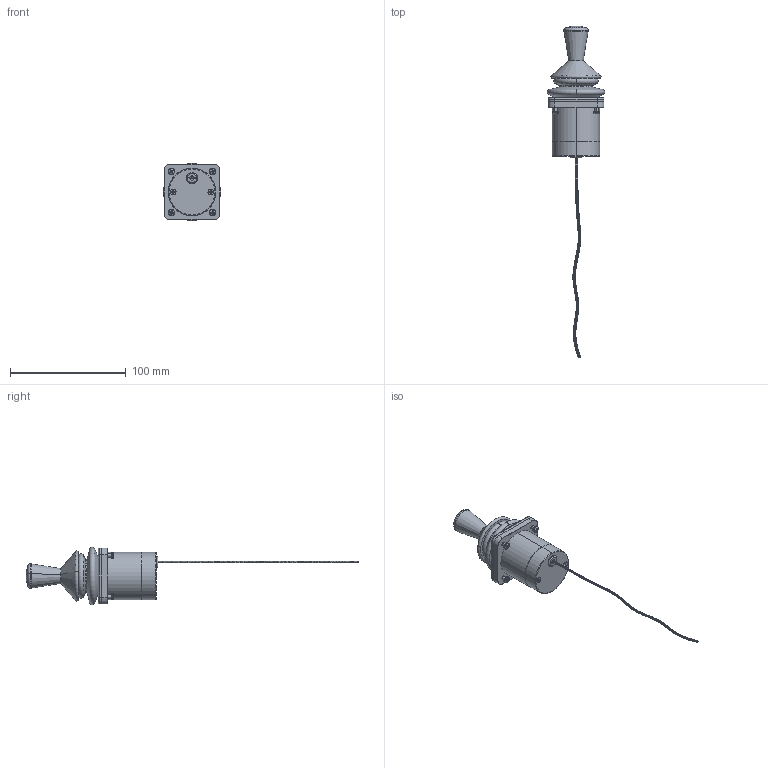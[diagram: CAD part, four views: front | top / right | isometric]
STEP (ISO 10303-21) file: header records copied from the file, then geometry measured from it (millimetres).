
FILE_DESCRIPTION (( 'STEP AP214' ), '1' );
FILE_NAME ('TRY10-2511111.STEP', '2011-11-30T09:24:07', ( 'admin' ), ( '' ), 'SwSTEP 2.0', 'SolidWorks 2007', '' );
FILE_SCHEMA (( 'AUTOMOTIVE_DESIGN' ));
Length unit declared in the file: millimetre
Products named in the file (14): Abdeckrahmen #2; Balg-02; Gummidichtung; Knauf-Typ1; Litzen_Standard; Flat Head 100 Screw_AI_CR-FHM1 0.112-40x0.25x0.25-N; Einzellitze; Pan Cross Head_AI_CR-PHMS 0.112-40x0.375x0.375-N; Durchf黨rungst黮le_Standard; Flat Head Screw_AI_CR-FHMS 0.112-40x0.625x0.625-N; Gehäuse-Boden-USB; Gehäuse-Neu; TRY10-2511111; Stellring
Assembly tree (26 placements, depth 3):
  TRY10-2511111
    Durchf黨rungst黮le_Standard
    Litzen_Standard
      Einzellitze  x9
    Knauf-Typ1
    Gehäuse-Neu
    Abdeckrahmen #2
    Flat Head 100 Screw_AI_CR-FHM1 0.112-40x0.25x0.25-N  x2
    Pan Cross Head_AI_CR-PHMS 0.112-40x0.375x0.375-N  x4
    Flat Head Screw_AI_CR-FHMS 0.112-40x0.625x0.625-N  x2
    Stellring
    Gehäuse-Boden-USB
    Gummidichtung
    Balg-02
Bounding box: 49.7 x 286.96 x 49.7 mm (x, y, z)
Volume: 53343.7 mm3; surface area: 50515.2 mm2
Topology: 25 solids, 25 shells, 1305 faces, 2775 edges, 1547 vertices
Faces by surface type: bspline 724, plane 250, cylinder 202, torus 69, cone 50, sphere 10
Entity records: 18860 total; most frequent: CARTESIAN_POINT 5875, DIRECTION 2684, ORIENTED_EDGE 2490, EDGE_CURVE 1245, AXIS2_PLACEMENT_3D 1061, VERTEX_POINT 753, EDGE_LOOP 618, CIRCLE 577
